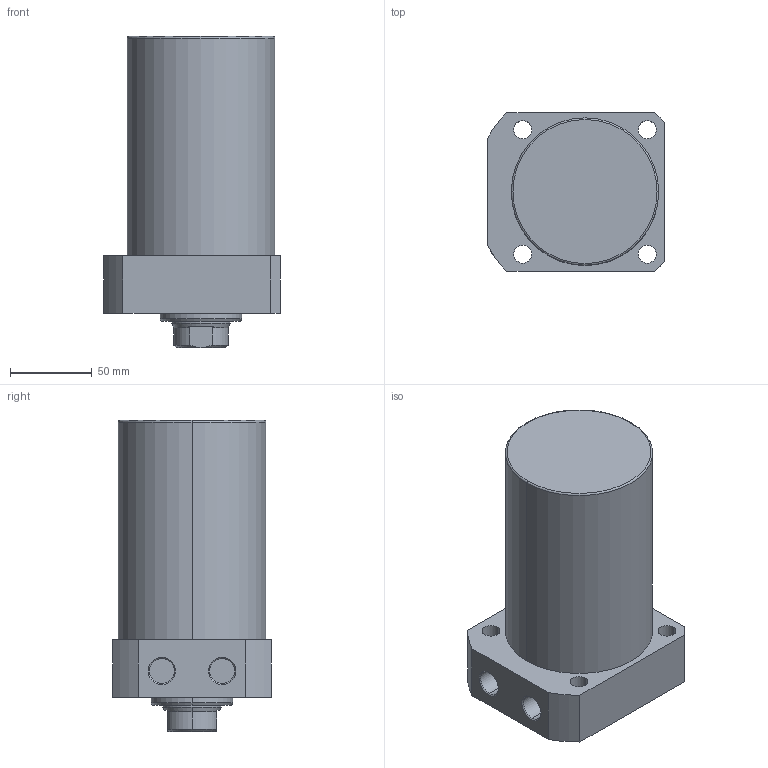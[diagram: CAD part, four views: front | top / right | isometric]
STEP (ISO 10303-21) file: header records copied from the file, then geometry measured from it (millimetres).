
FILE_DESCRIPTION (( 'STEP AP203' ), '1' );
FILE_NAME ('CLLR-090CA-090.STEP', '2019-12-18T06:23:50', ( '' ), ( '' ), 'SwSTEP 2.0', 'SolidWorks 2015', '' );
FILE_SCHEMA (( 'CONFIG_CONTROL_DESIGN' ));
Length unit declared in the file: millimetre
Products named in the file (1): CLLR-090CA-090
Bounding box: 108 x 97 x 190 mm (x, y, z)
Volume: 1201376.6 mm3; surface area: 82975 mm2
Topology: 1 solids, 1 shells, 65 faces, 151 edges, 94 vertices
Faces by surface type: cylinder 29, plane 19, cone 15, torus 2
Entity records: 1977 total; most frequent: CARTESIAN_POINT 357, DIRECTION 350, ORIENTED_EDGE 298, EDGE_CURVE 149, AXIS2_PLACEMENT_3D 143, VERTEX_POINT 94, EDGE_LOOP 81, CIRCLE 77
